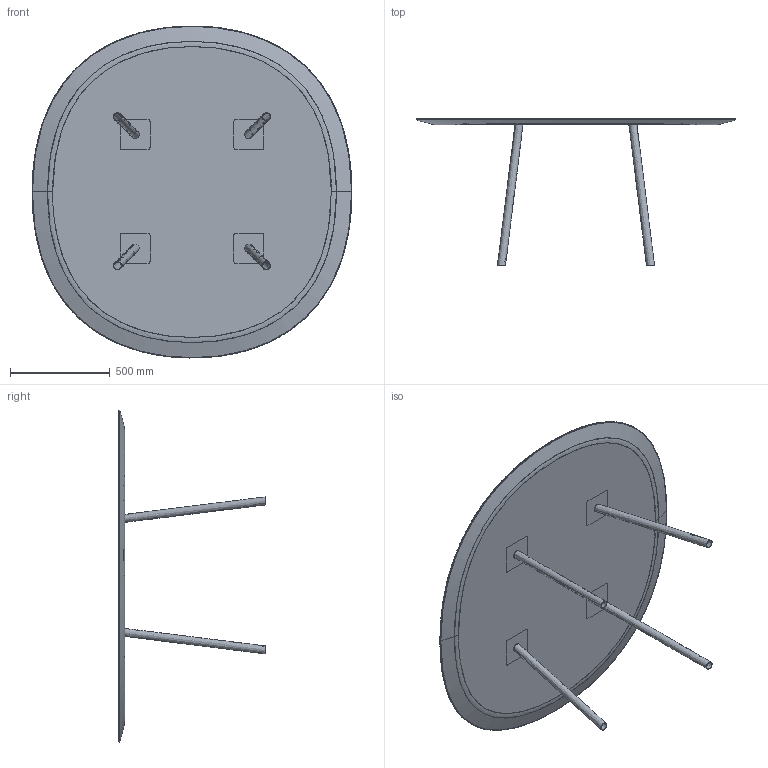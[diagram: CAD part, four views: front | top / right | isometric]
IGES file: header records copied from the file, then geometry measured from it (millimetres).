
Start section: SolidWorks IGES file using NURBS representation for surfaces
Global section: file name: W:\01-VICCARBE\PRODUCTOS\48-MAARTEN MESA\04-MODELADOS (PLANOS)\2-WEB\Piezas\IGS\VICCARBE_Maarten_160.IGS; native system: SolidWorks 2013; preprocessor: SolidWorks 2013; author: Usuario; date: 140904.103428; units: millimetre
Bounding box: 1600.02 x 734 x 1660.68 mm (x, y, z)
Surface area: 5269911.5 mm2 (no closed solid volume)
Topology: 0 solids, 0 shells, 72 faces, 351 edges, 335 vertices
Faces by surface type: bspline 72
